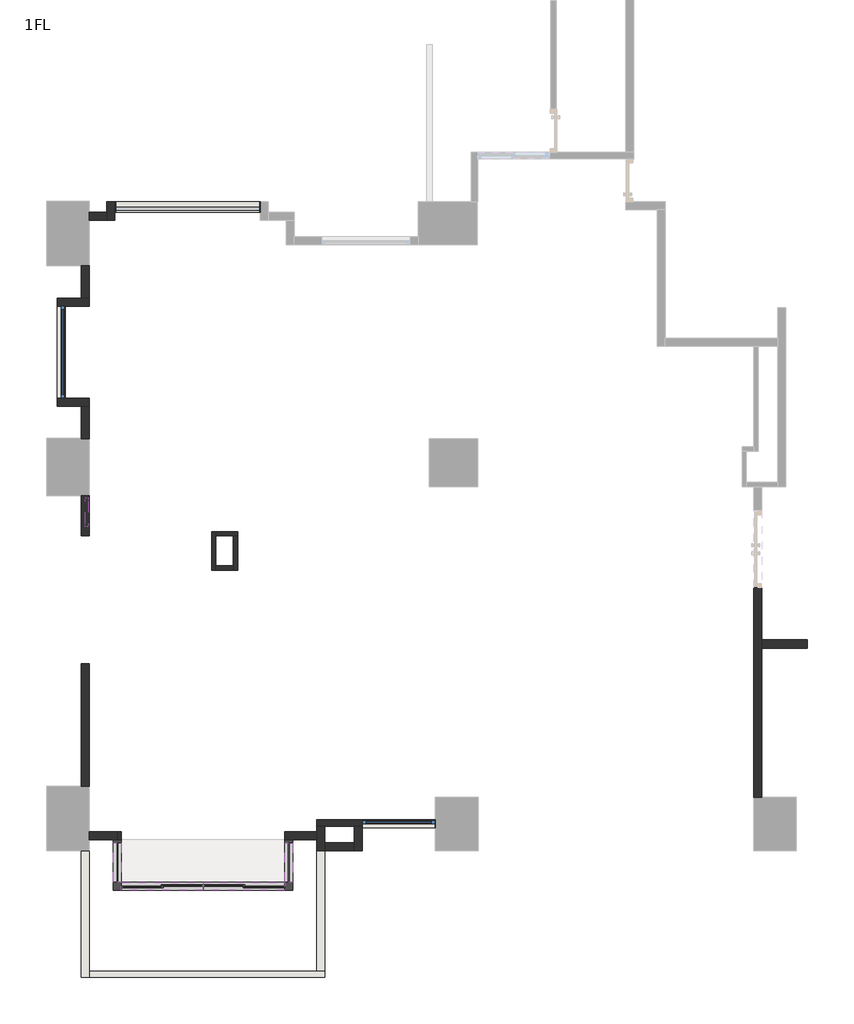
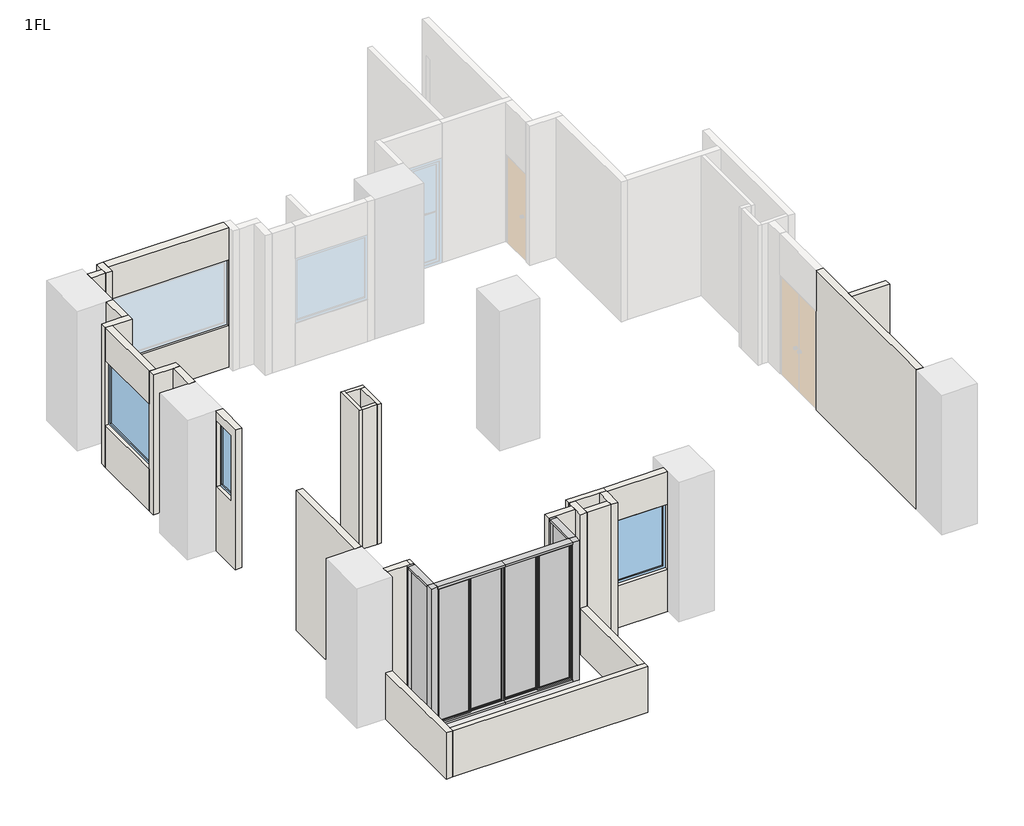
# One storey, part 1 of 2: 27 walls, 12 members, 4 plates, 3 windows.
"""IFC4 building model written with IfcOpenShell, lengths in millimetres."""

import ifcopenshell
import ifcopenshell.guid

model = None  # the IFC model being written
_history = None  # IfcOwnerHistory: only IFC2X3 demands one
_inside = {}  # id of a spatial element -> (the spatial element, [elements in it])
_under = {}  # id of a project, library or spatial element -> (it, [spatial elements below it])
_declared = {}  # id of a project -> (the project, [libraries it declares])
_typed = {}  # id of a type object -> (the type object, [elements of that type])
_made_of = {}  # id of a material, layer set ... -> (it, [elements and type objects made of it])


def new_model(schema):
    """Start an empty IFC model of exactly this schema.

    Asked for "IFC4X3", IfcOpenShell would pick the latest addendum, in which some entities
    have other attributes; the version numbers below select the first issue.
    IFC2X3 requires an IfcOwnerHistory on every rooted entity: one is made here for all.
    """
    global model, _history
    if schema == "IFC4X3":
        model = ifcopenshell.file(schema_version=(4, 3, 0, 0))
    else:
        model = ifcopenshell.file(schema=schema)
    _inside.clear()
    _under.clear()
    _declared.clear()
    _typed.clear()
    _made_of.clear()
    _history = None
    if model.schema == "IFC2X3":
        org = make("IfcOrganization", Name="unknown")
        user = make(
            "IfcPersonAndOrganization",
            ThePerson=make("IfcPerson", FamilyName="unknown"),
            TheOrganization=org,
        )
        app = make(
            "IfcApplication",
            ApplicationDeveloper=org,
            Version="unknown",
            ApplicationFullName="unknown",
            ApplicationIdentifier="unknown",
        )
        _history = make(
            "IfcOwnerHistory",
            OwningUser=user,
            OwningApplication=app,
            ChangeAction="ADDED",
            CreationDate=0,
        )
    return model


def make(cls, **values):
    """One entity of the class cls with the attributes given. An attribute that is None is left unset."""
    return model.create_entity(
        cls, **{name: value for name, value in values.items() if value is not None}
    )


def rooted(cls, **values):
    """An entity with a GlobalId (a new one), such as an element, a storey or a relation."""
    return make(cls, GlobalId=ifcopenshell.guid.new(), OwnerHistory=_history, **values)


def si_unit(unit_type, name, prefix=None):
    """IfcSIUnit, for example si_unit("LENGTHUNIT", "METRE", prefix="MILLI")."""
    return make("IfcSIUnit", UnitType=unit_type, Prefix=prefix, Name=name)


def assignment(units):
    """IfcUnitAssignment: the units of a project."""
    return None if units is None else make("IfcUnitAssignment", Units=units)


def point(xyz):
    """IfcCartesianPoint."""
    return None if xyz is None else make("IfcCartesianPoint", Coordinates=xyz)


def direction(xyz):
    """IfcDirection."""
    return None if xyz is None else make("IfcDirection", DirectionRatios=xyz)


def frame(location, z_axis=None, x_axis=None):
    """IfcAxis2Placement3D, a coordinate frame: its origin and axes. An axis left out is left unset."""
    return make(
        "IfcAxis2Placement3D",
        Location=point(location),
        Axis=direction(z_axis),
        RefDirection=direction(x_axis),
    )


def origin():
    """The frame at (0, 0, 0) with its axes left unset."""
    return frame((0.0, 0.0, 0.0))


def origin_with_axes():
    """The frame at (0, 0, 0) with the z axis (0, 0, 1) and the x axis (1, 0, 0) written out."""
    return frame((0.0, 0.0, 0.0), z_axis=(0.0, 0.0, 1.0), x_axis=(1.0, 0.0, 0.0))


def place(relative_to, where):
    """IfcLocalPlacement: puts the frame where relative to a parent placement (None: the world)."""
    return make(
        "IfcLocalPlacement", PlacementRelTo=relative_to, RelativePlacement=where
    )


def context(
    kind, dimensions, precision=None, world=None, true_north=None, identifier=None
):
    """IfcGeometricRepresentationContext, for example the 3D "Model" context."""
    return make(
        "IfcGeometricRepresentationContext",
        ContextIdentifier=identifier,
        ContextType=kind,
        CoordinateSpaceDimension=dimensions,
        Precision=precision,
        WorldCoordinateSystem=world,
        TrueNorth=true_north,
    )


def project(units=None, contexts=None):
    """IfcProject with its units and contexts."""
    return rooted(
        "IfcProject",
        Name="project",
        RepresentationContexts=contexts,
        UnitsInContext=assignment(units),
    )


def spatial(cls, under=None, at=None, **own):
    """A site, building, storey or space (cls), placed at a placement, below another one or the project."""
    s = rooted(cls, ObjectPlacement=at, **own)
    if under is not None:
        _under.setdefault(under.id(), (under, []))[1].append(s)
    return s


def polyline(points):
    """IfcPolyline through the points."""
    return make("IfcPolyline", Points=[point(p) for p in points])


def outline(outer, holes=None, kind="AREA"):
    """IfcArbitraryClosedProfileDef: a profile drawn as a closed curve; with holes, ...WithVoids."""
    if holes is None:
        return make("IfcArbitraryClosedProfileDef", ProfileType=kind, OuterCurve=outer)
    return make(
        "IfcArbitraryProfileDefWithVoids",
        ProfileType=kind,
        OuterCurve=outer,
        InnerCurves=holes,
    )


def extrude(swept, where, along, depth):
    """IfcExtrudedAreaSolid: the profile swept, set in the frame where, extruded along a direction by depth."""
    return make(
        "IfcExtrudedAreaSolid",
        SweptArea=swept,
        Position=where,
        ExtrudedDirection=direction(along),
        Depth=depth,
    )


def faces_of(points, faces, orient=None, outer=None):
    """IfcFace entities. A face is a list of loops; a loop is a list of indices into points, from 0.

    orient and outer hold one flag for each loop. By default every Orientation is true, the
    first loop of a face is its IfcFaceOuterBound and the others are IfcFaceBound.
    """
    made = []
    for i, loops in enumerate(faces):
        bounds = []
        for j, loop in enumerate(loops):
            is_outer = j == 0 if outer is None else outer[i][j]
            bounds.append(
                make(
                    "IfcFaceOuterBound" if is_outer else "IfcFaceBound",
                    Bound=make("IfcPolyLoop", Polygon=[points[k] for k in loop]),
                    Orientation=True if orient is None else orient[i][j],
                )
            )
        made.append(make("IfcFace", Bounds=bounds))
    return made


def faceted_brep(points, faces, orient=None, outer=None, voids=None):
    """IfcFacetedBrep: a solid bounded by flat faces; with voids (closed shells), ...WithVoids."""
    shared = [point(p) for p in points]
    hull = make("IfcClosedShell", CfsFaces=faces_of(shared, faces, orient, outer))
    if voids is None:
        return make("IfcFacetedBrep", Outer=hull)
    return make(
        "IfcFacetedBrepWithVoids",
        Outer=hull,
        Voids=[
            make(cls, CfsFaces=faces_of(shared, fs, o, b)) for cls, fs, o, b in voids
        ],
    )


def shape(context_of_items, identifier, shape_type, items):
    """IfcShapeRepresentation: the items that make up one representation, for example the "Body"."""
    return make(
        "IfcShapeRepresentation",
        ContextOfItems=context_of_items,
        RepresentationIdentifier=identifier,
        RepresentationType=shape_type,
        Items=items,
    )


def source(mapping_origin, context_of_items, identifier, shape_type, items):
    """IfcRepresentationMap: a shape defined once, which mapped items show again and again."""
    return make(
        "IfcRepresentationMap",
        MappingOrigin=mapping_origin,
        MappedRepresentation=shape(context_of_items, identifier, shape_type, items),
    )


def transform(
    local_origin,
    x_axis=None,
    y_axis=None,
    z_axis=None,
    scale=None,
    scale2=None,
    scale3=None,
    uniform=True,
):
    """IfcCartesianTransformationOperator3D, or its non-uniform kind. x_axis, y_axis, z_axis: its Axis1, 2, 3."""
    if uniform:
        return make(
            "IfcCartesianTransformationOperator3D",
            Axis1=direction(x_axis),
            Axis2=direction(y_axis),
            LocalOrigin=point(local_origin),
            Scale=scale,
            Axis3=direction(z_axis),
        )
    return make(
        "IfcCartesianTransformationOperator3DnonUniform",
        Axis1=direction(x_axis),
        Axis2=direction(y_axis),
        LocalOrigin=point(local_origin),
        Scale=scale,
        Axis3=direction(z_axis),
        Scale2=scale2,
        Scale3=scale3,
    )


def mapped(mapping_source, mapping_target):
    """IfcMappedItem: shows the shape of a source again, moved by a transform."""
    return make(
        "IfcMappedItem", MappingSource=mapping_source, MappingTarget=mapping_target
    )


def made_of(thing, what):
    """Note that an element or type object is made of a material, layer set ...; save() writes the relation."""
    if what is not None:
        _made_of.setdefault(what.id(), (what, []))[1].append(thing)
    return thing


def element(
    cls,
    number,
    at=None,
    inside=None,
    cuts=None,
    type_object=None,
    material=None,
    context=None,
    identifier="Body",
    shape_type=None,
    held_by="IfcProductDefinitionShape",
    body=None,
    shapes=None,
    **own,
):
    """One element of the class cls, such as IfcWall. Its Tag is "e" and its number.

    at: its placement. inside: the storey or other place that contains it. cuts: it is an
    opening in that element (IfcRelVoidsElement). A single representation is given by context,
    identifier, shape_type and body (its items); several are given by shapes. held_by: the class
    of the entity that holds the representations. save() writes the other relations.
    """
    e = rooted(cls, Tag="e%d" % number, ObjectPlacement=at, **own)
    if body is not None:
        shapes = [shape(context, identifier, shape_type, body)]
    if shapes is not None:
        e.Representation = make(held_by, Representations=shapes)
    if inside is not None:
        _inside.setdefault(inside.id(), (inside, []))[1].append(e)
    if cuts is not None:
        rooted(
            "IfcRelVoidsElement", RelatingBuildingElement=cuts, RelatedOpeningElement=e
        )
    if type_object is not None:
        _typed.setdefault(type_object.id(), (type_object, []))[1].append(e)
    return made_of(e, material)


def aggregate(whole, parts):
    """IfcRelAggregates: a whole, such as a stair, and the parts it consists of."""
    return rooted("IfcRelAggregates", RelatingObject=whole, RelatedObjects=parts)


def save(model, path):
    """Write the relations noted so far, then the file.

    IfcRelAggregates (storeys below a building ...), IfcRelContainedInSpatialStructure (elements
    in a storey), IfcRelDefinesByType, IfcRelAssociatesMaterial and IfcRelDeclares: one each for
    every whole, place, type object, material and project.
    """
    for whole, parts in _under.values():
        aggregate(whole, parts)
    for where, things in _inside.values():
        rooted(
            "IfcRelContainedInSpatialStructure",
            RelatedElements=things,
            RelatingStructure=where,
        )
    for kind, things in _typed.values():
        rooted("IfcRelDefinesByType", RelatedObjects=things, RelatingType=kind)
    for what, things in _made_of.values():
        rooted("IfcRelAssociatesMaterial", RelatedObjects=things, RelatingMaterial=what)
    for by, libraries in _declared.values():
        rooted("IfcRelDeclares", RelatingContext=by, RelatedDefinitions=libraries)
    model.write(path)


def member_cc25a499(model_context):
    return source(origin(), model_context, "Body", "SweptSolid", [
        extrude(outline(polyline([(75.0, 75.0), (75.0, -75.0), (-75.0, -75.0), (-75.0, 75.0), (75.0, 75.0)])), frame((0.0, 0.0, -3330.0), z_axis=(0.0, 0.0, 1.0), x_axis=(1.0, 0.0, 0.0)), (0.0, 0.0, 1.0), 3330.0),
    ])


def member_50_x_150mm_f2553ced(model_context):
    return source(origin(), model_context, "Body", "SweptSolid", [
        extrude(outline(polyline([(0.0, 75.0), (0.0, -75.0), (-50.0, -75.0), (-50.0, 75.0), (0.0, 75.0)])), frame((0.0, 0.0, -3330.0), z_axis=(0.0, 0.0, 1.0), x_axis=(1.0, 0.0, 0.0)), (0.0, 0.0, 1.0), 3330.0),
    ])


def member_50_x_150mm_7336e13a(model_context):
    return source(origin(), model_context, "Body", "SweptSolid", [
        extrude(outline(polyline([(0.0, 75.0), (0.0, -75.0), (-50.0, -75.0), (-50.0, 75.0), (0.0, 75.0)])), frame((0.0, 0.0, -739.9999994), z_axis=(0.0, 0.0, 1.0), x_axis=(1.0, 0.0, 0.0)), (0.0, 0.0, 1.0), 739.9999994),
    ])


def member_50_x_150mm_3bafebb8(model_context):
    return source(origin(), model_context, "Body", "SweptSolid", [
        extrude(outline(polyline([(0.0, 75.0), (0.0, -75.0), (-50.0, -75.0), (-50.0, 75.0), (0.0, 75.0)])), frame((0.0, 0.0, -1522.5000002), z_axis=(0.0, 0.0, 1.0), x_axis=(1.0, 0.0, 0.0)), (0.0, 0.0, 1.0), 1522.5000002),
    ])


def plate_205e5e19(model_context):
    return source(origin(), model_context, "Body", "SweptSolid", [
        extrude(outline(polyline([(369.9999997, -5.0), (-369.9999997, -5.0), (-369.9999997, 5.0), (369.9999997, 5.0), (369.9999997, -5.0)])), origin_with_axes(), (0.0, 0.0, 1.0), 3230.0),
    ])


def plate_54f529d7(model_context):
    return source(origin(), model_context, "Body", "SweptSolid", [
        extrude(outline(polyline([(0.0, -15.0), (0.0, 761.2500001), (3230.0, 761.2500001), (3230.0, -15.0), (0.0, -15.0)]), holes=[polyline([(30.0, 15.0), (3200.0, 15.0), (3200.0, 731.2500001), (30.0, 731.2500001), (30.0, 15.0)])]), frame((0.0, 0.0, 0.0), z_axis=(0.0, 1.0, 0.0), x_axis=(0.0, 0.0, 1.0)), (0.0, 0.0, 1.0), 30.0),
        extrude(outline(polyline([(711.2500001, 10.0), (35.0, 10.0), (35.0, 20.0), (711.2500001, 20.0), (711.2500001, 10.0)])), frame((0.0, 0.0, 50.0), z_axis=(0.0, 0.0, 1.0), x_axis=(1.0, 0.0, 0.0)), (0.0, 0.0, 1.0), 3130.0),
        extrude(outline(polyline([(3200.0, 731.2500001), (3200.0, 15.0), (30.0, 15.0), (30.0, 731.2500001), (3200.0, 731.2500001)]), holes=[polyline([(3180.0, 35.0), (3180.0, 711.2500001), (50.0, 711.2500001), (50.0, 35.0), (3180.0, 35.0)])]), frame((0.0, 5.0, 0.0), z_axis=(0.0, 1.0, 0.0), x_axis=(0.0, 0.0, 1.0)), (0.0, 0.0, 1.0), 20.0),
        extrude(outline(polyline([(-35.0, -20.0), (-711.2500001, -20.0), (-711.2500001, -10.0), (-35.0, -10.0), (-35.0, -20.0)])), frame((0.0, 0.0, 50.0), z_axis=(0.0, 0.0, 1.0), x_axis=(1.0, 0.0, 0.0)), (0.0, 0.0, 1.0), 3130.0),
        extrude(outline(polyline([(3200.0, -731.2500001), (30.0, -731.2500001), (30.0, -15.0), (3200.0, -15.0), (3200.0, -731.2500001)]), holes=[polyline([(3180.0, -711.2500001), (3180.0, -35.0), (50.0, -35.0), (50.0, -711.2500001), (3180.0, -711.2500001)])]), frame((0.0, -25.0, 0.0), z_axis=(0.0, 1.0, 0.0), x_axis=(0.0, 0.0, 1.0)), (0.0, 0.0, 1.0), 20.0),
        extrude(outline(polyline([(3230.0, -761.2500001), (0.0, -761.2500001), (0.0, 15.0), (3230.0, 15.0), (3230.0, -761.2500001)]), holes=[polyline([(3200.0, -15.0), (30.0, -15.0), (30.0, -731.2500001), (3200.0, -731.2500001), (3200.0, -15.0)])]), frame((0.0, -30.0, 0.0), z_axis=(0.0, 1.0, 0.0), x_axis=(0.0, 0.0, 1.0)), (0.0, 0.0, 1.0), 30.0),
    ])


def plate_564381dc(model_context):
    return source(origin(), model_context, "Body", "SweptSolid", [
        extrude(outline(polyline([(0.0, -15.0), (0.0, 761.2500001), (3230.0, 761.2500001), (3230.0, -15.0), (0.0, -15.0)]), holes=[polyline([(30.0, 15.0), (3200.0, 15.0), (3200.0, 731.2500001), (30.0, 731.2500001), (30.0, 15.0)])]), frame((0.0, -30.0, 0.0), z_axis=(0.0, 1.0, 0.0), x_axis=(0.0, 0.0, 1.0)), (0.0, 0.0, 1.0), 30.0),
        extrude(outline(polyline([(711.2500001, -10.0), (711.2500001, -20.0), (35.0, -20.0), (35.0, -10.0), (711.2500001, -10.0)])), frame((0.0, 0.0, 50.0), z_axis=(0.0, 0.0, 1.0), x_axis=(1.0, 0.0, 0.0)), (0.0, 0.0, 1.0), 3130.0),
        extrude(outline(polyline([(3200.0, 731.2500001), (3200.0, 15.0), (30.0, 15.0), (30.0, 731.2500001), (3200.0, 731.2500001)]), holes=[polyline([(3180.0, 35.0), (3180.0, 711.2500001), (50.0, 711.2500001), (50.0, 35.0), (3180.0, 35.0)])]), frame((0.0, -25.0, 0.0), z_axis=(0.0, 1.0, 0.0), x_axis=(0.0, 0.0, 1.0)), (0.0, 0.0, 1.0), 20.0),
        extrude(outline(polyline([(-35.0, 20.0), (-35.0, 10.0), (-711.2500001, 10.0), (-711.2500001, 20.0), (-35.0, 20.0)])), frame((0.0, 0.0, 50.0), z_axis=(0.0, 0.0, 1.0), x_axis=(1.0, 0.0, 0.0)), (0.0, 0.0, 1.0), 3130.0),
        extrude(outline(polyline([(3200.0, -731.2500001), (30.0, -731.2500001), (30.0, -15.0), (3200.0, -15.0), (3200.0, -731.2500001)]), holes=[polyline([(3180.0, -711.2500001), (3180.0, -35.0), (50.0, -35.0), (50.0, -711.2500001), (3180.0, -711.2500001)])]), frame((0.0, 5.0, 0.0), z_axis=(0.0, 1.0, 0.0), x_axis=(0.0, 0.0, 1.0)), (0.0, 0.0, 1.0), 20.0),
        extrude(outline(polyline([(3230.0, -761.2500001), (0.0, -761.2500001), (0.0, 15.0), (3230.0, 15.0), (3230.0, -761.2500001)]), holes=[polyline([(3200.0, -15.0), (30.0, -15.0), (30.0, -731.2500001), (3200.0, -731.2500001), (3200.0, -15.0)])]), frame((0.0, 0.0, 0.0), z_axis=(0.0, 1.0, 0.0), x_axis=(0.0, 0.0, 1.0)), (0.0, 0.0, 1.0), 30.0),
    ])


def window_5eaa62ca(model_context):
    return source(origin(), model_context, "Body", "SweptSolid", [
        extrude(outline(polyline([(2550.0, 677.5), (2550.0, -677.5), (1000.0, -677.5), (1000.0, 677.5), (2550.0, 677.5)]), holes=[polyline([(2490.0, 617.5), (1060.0, 617.5), (1060.0, -617.5), (2490.0, -617.5), (2490.0, 617.5)])]), frame((0.0, -60.0, 0.0), z_axis=(0.0, 1.0, 0.0), x_axis=(0.0, 0.0, 1.0)), (0.0, 0.0, 1.0), 60.0),
        extrude(outline(polyline([(-617.5, -25.0), (617.5, -25.0), (617.5, -35.0), (-617.5, -35.0), (-617.5, -25.0)])), frame((0.0, 0.0, 1060.0), z_axis=(0.0, 0.0, 1.0), x_axis=(1.0, 0.0, 0.0)), (0.0, 0.0, 1.0), 1430.0),
    ])


def window_3458c4c9(model_context):
    return source(origin(), model_context, "Body", "SweptSolid", [
        extrude(outline(polyline([(3100.0, 270.0), (3100.0, -270.0), (1550.0, -270.0), (1550.0, 270.0), (3100.0, 270.0)]), holes=[polyline([(3040.0, 210.0), (1610.0, 210.0), (1610.0, -210.0), (3040.0, -210.0), (3040.0, 210.0)])]), frame((0.0, -60.0, 0.0), z_axis=(0.0, 1.0, 0.0), x_axis=(0.0, 0.0, 1.0)), (0.0, 0.0, 1.0), 60.0),
        extrude(outline(polyline([(-210.0, -25.0), (210.0, -25.0), (210.0, -35.0), (-210.0, -35.0), (-210.0, -25.0)])), frame((0.0, 0.0, 1610.0), z_axis=(0.0, 0.0, 1.0), x_axis=(1.0, 0.0, 0.0)), (0.0, 0.0, 1.0), 1430.0),
    ])


def window_e3a91f63(model_context):
    return source(origin(), model_context, "Body", "SweptSolid", [
        extrude(outline(polyline([(2550.0, 857.5), (2550.0, -857.5), (1000.0, -857.5), (1000.0, 857.5), (2550.0, 857.5)]), holes=[polyline([(2490.0, 797.5), (1060.0, 797.5), (1060.0, -797.5), (2490.0, -797.5), (2490.0, 797.5)])]), frame((0.0, -60.0, 0.0), z_axis=(0.0, 1.0, 0.0), x_axis=(0.0, 0.0, 1.0)), (0.0, 0.0, 1.0), 60.0),
        extrude(outline(polyline([(-797.5, -25.0), (797.5, -25.0), (797.5, -35.0), (-797.5, -35.0), (-797.5, -25.0)])), frame((0.0, 0.0, 1060.0), z_axis=(0.0, 0.0, 1.0), x_axis=(1.0, 0.0, 0.0)), (0.0, 0.0, 1.0), 1430.0),
    ])


model = new_model("IFC4")

# Units and contexts
model_context = context("Model", 3, world=origin())
ifc_project = project(units=[si_unit("LENGTHUNIT", "METRE", prefix="MILLI")], contexts=[model_context])

# Site, building, storey
site = spatial("IfcSite", under=ifc_project)
building = spatial("IfcBuilding", under=site)
storey = spatial("IfcBuildingStorey", under=building, Name="1FL", Elevation=0.0)

# Members
placement = place(None, origin())
member_shape = member_cc25a499(model_context)
element("IfcMember", 1, ObjectType="四邊形角豎框 : 四邊形-鋁擠型料", at=placement, inside=storey, context=model_context, shape_type="MappedRepresentation", body=[
    mapped(member_shape, transform((-5558.8155559, -5105.9301263, 0.0), x_axis=(-1.0, 0.0, 0.0), y_axis=(0.0, 1.0, 0.0), z_axis=(0.0, 0.0, -1.0))),
])
element("IfcMember", 2, ObjectType="四邊形角豎框 : 四邊形-鋁擠型料", at=placement, inside=storey, context=model_context, shape_type="MappedRepresentation", body=[
    mapped(member_shape, transform((-2363.8155555, -5105.9301263, 0.0), x_axis=(0.0, -1.0, 0.0), y_axis=(-1.0, 0.0, 0.0), z_axis=(0.0, 0.0, -1.0))),
])
member_50_x_150mm_shape = member_50_x_150mm_f2553ced(model_context)
element("IfcMember", 3, ObjectType="矩形豎框 : 50 x 150mm", at=placement, inside=storey, context=model_context, shape_type="MappedRepresentation", body=[
    mapped(member_50_x_150mm_shape, transform((-5558.8155559, -4240.9301269, 0.0), x_axis=(0.0, 1.0, 0.0), y_axis=(1.0, 0.0, 0.0), z_axis=(0.0, 0.0, -1.0))),
])
element("IfcMember", 4, ObjectType="矩形豎框 : 50 x 150mm", at=placement, inside=storey, context=model_context, shape_type="MappedRepresentation", body=[
    mapped(member_50_x_150mm_shape, transform((-2363.8155555, -4240.9301269, 3330.0), x_axis=(0.0, 1.0, 0.0), y_axis=(-1.0, 0.0, 0.0), z_axis=(0.0, 0.0, 1.0))),
])
member_50_x_150mm_2_shape = member_50_x_150mm_7336e13a(model_context)
element("IfcMember", 5, ObjectType="矩形豎框 : 50 x 150mm", at=placement, inside=storey, context=model_context, shape_type="MappedRepresentation", body=[
    mapped(member_50_x_150mm_2_shape, transform((-5558.8155559, -5030.9301263, 0.0), x_axis=(0.0, 0.0, -1.0), y_axis=(1.0, 0.0, 0.0), z_axis=(0.0, -1.0, 0.0))),
])
element("IfcMember", 6, ObjectType="矩形豎框 : 50 x 150mm", at=placement, inside=storey, context=model_context, shape_type="MappedRepresentation", body=[
    mapped(member_50_x_150mm_2_shape, transform((-5558.8155559, -4290.9301269, 3330.0), x_axis=(0.0, 0.0, 1.0), y_axis=(1.0, 0.0, 0.0), z_axis=(0.0, 1.0, 0.0))),
])
element("IfcMember", 7, ObjectType="矩形豎框 : 50 x 150mm", at=placement, inside=storey, context=model_context, shape_type="MappedRepresentation", body=[
    mapped(member_50_x_150mm_2_shape, transform((-2363.8155555, -4290.9301269, 0.0), x_axis=(0.0, 0.0, -1.0), y_axis=(-1.0, 0.0, 0.0), z_axis=(0.0, 1.0, 0.0))),
])
element("IfcMember", 8, ObjectType="矩形豎框 : 50 x 150mm", at=placement, inside=storey, context=model_context, shape_type="MappedRepresentation", body=[
    mapped(member_50_x_150mm_2_shape, transform((-2363.8155555, -5030.9301263, 3330.0), x_axis=(0.0, 0.0, 1.0), y_axis=(-1.0, 0.0, 0.0), z_axis=(0.0, -1.0, 0.0))),
])
member_50_x_150mm_3_shape = member_50_x_150mm_3bafebb8(model_context)
element("IfcMember", 9, ObjectType="矩形豎框 : 50 x 150mm", at=placement, inside=storey, context=model_context, shape_type="MappedRepresentation", body=[
    mapped(member_50_x_150mm_3_shape, transform((-2438.8155555, -5105.9301263, 0.0), x_axis=(0.0, 0.0, -1.0), y_axis=(0.0, 1.0, 0.0), z_axis=(1.0, 0.0, 0.0))),
])
element("IfcMember", 10, ObjectType="矩形豎框 : 50 x 150mm", at=placement, inside=storey, context=model_context, shape_type="MappedRepresentation", body=[
    mapped(member_50_x_150mm_3_shape, transform((-5483.8155559, -5105.9301263, 3330.0), x_axis=(0.0, 0.0, 1.0), y_axis=(0.0, 1.0, 0.0), z_axis=(-1.0, 0.0, 0.0))),
])
element("IfcMember", 11, ObjectType="矩形豎框 : 50 x 150mm", at=placement, inside=storey, context=model_context, shape_type="MappedRepresentation", body=[
    mapped(member_50_x_150mm_3_shape, transform((-3961.3155557, -5105.9301263, 0.0), x_axis=(0.0, 0.0, -1.0), y_axis=(0.0, 1.0, 0.0), z_axis=(1.0, 0.0, 0.0))),
])
element("IfcMember", 12, ObjectType="矩形豎框 : 50 x 150mm", at=placement, inside=storey, context=model_context, shape_type="MappedRepresentation", body=[
    mapped(member_50_x_150mm_3_shape, transform((-3961.3155557, -5105.9301263, 3330.0), x_axis=(0.0, 0.0, 1.0), y_axis=(0.0, 1.0, 0.0), z_axis=(-1.0, 0.0, 0.0))),
])

# Plates
plate_shape = plate_205e5e19(model_context)
element("IfcPlate", 13, ObjectType="系統嵌板 : 玻璃1.0cm", at=placement, inside=storey, context=model_context, shape_type="MappedRepresentation", body=[
    mapped(plate_shape, transform((-5558.8155559, -4660.9301266, 50.0), x_axis=(0.0, 1.0, 0.0), y_axis=(-1.0, 0.0, 0.0), z_axis=(0.0, 0.0, 1.0))),
])
element("IfcPlate", 14, ObjectType="系統嵌板 : 玻璃1.0cm", at=placement, inside=storey, context=model_context, shape_type="MappedRepresentation", body=[
    mapped(plate_shape, transform((-2363.8155555, -4660.9301266, 50.0), x_axis=(0.0, -1.0, 0.0), y_axis=(1.0, 0.0, 0.0), z_axis=(0.0, 0.0, 1.0))),
])
plate_2_shape = plate_54f529d7(model_context)
element("IfcPlate", 15, ObjectType="帷幕橫拉窗 : 帷幕橫拉窗", at=placement, inside=storey, context=model_context, shape_type="MappedRepresentation", body=[
    mapped(plate_2_shape, transform((-4722.5655558, -5105.9301263, 50.0), x_axis=(-1.0, 0.0, 0.0), y_axis=(0.0, -1.0, 0.0), z_axis=(0.0, 0.0, 1.0))),
])
plate_3_shape = plate_564381dc(model_context)
element("IfcPlate", 16, ObjectType="帷幕橫拉窗 : 帷幕橫拉窗", at=placement, inside=storey, context=model_context, shape_type="MappedRepresentation", body=[
    mapped(plate_3_shape, transform((-3200.0655556, -5105.9301263, 50.0), x_axis=(-1.0, 0.0, 0.0), y_axis=(0.0, -1.0, 0.0), z_axis=(0.0, 0.0, 1.0))),
])

# Walls
element("IfcWall", 17, ObjectType="RC牆 15cm", at=placement, inside=storey, context=model_context, shape_type="SweptSolid", body=[
    extrude(outline(polyline([(-5756.3155559, 7314.0698739), (-6083.8155558, 7314.0698739), (-6083.8155558, 7464.0698739), (-5756.3155559, 7464.0698739), (-5756.3155559, 7314.0698739)])), origin_with_axes(), (0.0, 0.0, 1.0), 3330.0),
])
element("IfcWall", 18, ObjectType="RC牆 15cm", at=placement, inside=storey, context=model_context, shape_type="Brep", body=[
    faceted_brep([(-5606.3155559, 7314.0698739, 0.0), (-5606.3155559, 7464.0698741, 0.0), (-5606.3155559, 7664.0698741, 0.0), (-5606.3155559, 7664.0698741, 3330.0), (-5606.3155559, 7464.0698741, 3330.0), (-5606.3155559, 7314.0698739, 3330.0), (-5756.3155559, 7314.0698739, 0.0), (-5756.3155559, 7314.0698739, 3330.0), (-5756.3155559, 7464.0698739, 3330.0), (-5756.3155559, 7664.0698741, 3330.0), (-5756.3155559, 7664.0698741, 0.0), (-5756.3155559, 7464.0698739, 0.0)], [[[0, 1, 2, 3, 4, 5]], [[6, 7, 8, 9, 10, 11]], [[2, 1, 0, 6, 11, 10]], [[5, 4, 3, 9, 8, 7]], [[0, 5, 7, 6]], [[3, 2, 10, 9]]]),
])
element("IfcWall", 19, ObjectType="RC牆 15cm", at=placement, inside=storey, context=model_context, shape_type="Brep", body=[
    faceted_brep([(6311.1844447, 464.0698741, 0.0), (6311.1844447, -3440.9301263, 0.0), (6311.1844447, -3440.9301263, 3330.0), (6311.1844447, 464.0698741, 3330.0), (6311.1844447, 464.0698741, 2360.0), (6461.1844447, 464.0698741, 0.0), (6461.1844447, 464.0698741, 2360.0), (6461.1844447, 464.0698741, 3330.0), (6461.1844447, -510.979764, 3330.0), (6461.1844447, -660.979764, 3330.0), (6461.1844447, -3440.9301263, 3330.0), (6461.1844447, -3440.9301263, 0.0), (6461.1844447, -660.979764, 0.0), (6461.1844447, -510.979764, 0.0)], [[[0, 1, 2, 3, 4]], [[5, 6, 7, 8, 9, 10, 11, 12, 13]], [[1, 0, 5, 13, 12, 11]], [[2, 1, 11, 10]], [[3, 2, 10, 9, 8, 7]], [[0, 4, 3, 7, 6, 5]]]),
])
element("IfcWall", 20, ObjectType="RC牆 15cm", at=placement, inside=storey, context=model_context, shape_type="SweptSolid", body=[
    extrude(outline(polyline([(6461.1844447, -510.979764), (7311.1844447, -510.979764), (7311.1844447, -660.979764), (6461.1844447, -660.979764), (6461.1844447, -510.979764)])), origin_with_axes(), (0.0, 0.0, 1.0), 3330.0),
])
element("IfcWall", 21, ObjectType="RC牆 12cm", at=placement, inside=storey, context=model_context, shape_type="Brep", body=[
    faceted_brep([(-1838.8155555, -3985.9301263, 0.0), (-1688.8155555, -3985.9301263, 0.0), (-1143.8155554, -3985.9301263, 0.0), (-993.8155554, -3985.9301263, 0.0), (-993.8155554, -3985.9301263, 3330.0), (-1143.8155554, -3985.9301263, 3330.0), (-1688.8155555, -3985.9301263, 3330.0), (-1838.8155555, -3985.9301263, 3330.0), (-1838.8155555, -3865.9301263, 0.0), (-1838.8155555, -3865.9301263, 3330.0), (-993.8155554, -3865.9301263, 3330.0), (-993.8155554, -3865.9301263, 0.0)], [[[0, 1, 2, 3, 4, 5, 6, 7]], [[8, 9, 10, 11]], [[3, 2, 1, 0, 8, 11]], [[7, 6, 5, 4, 10, 9]], [[4, 3, 11, 10]], [[0, 7, 9, 8]]]),
])
element("IfcWall", 22, ObjectType="RC牆 15cm", at=placement, inside=storey, context=model_context, shape_type="Brep", body=[
    faceted_brep([(-1143.8155554, -3985.9301263, 0.0), (-1143.8155554, -4290.9301263, 0.0), (-1143.8155554, -4440.9301263, 0.0), (-1143.8155554, -4440.9301263, 3330.0), (-1143.8155554, -4290.9301263, 3330.0), (-1143.8155554, -3985.9301263, 3330.0), (-993.8155554, -3985.9301263, 0.0), (-993.8155554, -3985.9301263, 3330.0), (-993.8155554, -4015.9301263, 3330.0), (-993.8155554, -4440.9301263, 3330.0), (-993.8155554, -4440.9301263, 0.0), (-993.8155554, -4015.9301263, 0.0)], [[[0, 1, 2, 3, 4, 5]], [[6, 7, 8, 9, 10, 11]], [[2, 1, 0, 6, 11, 10]], [[5, 4, 3, 9, 8, 7]], [[3, 2, 10, 9]], [[0, 5, 7, 6]]]),
])
element("IfcWall", 23, ObjectType="RC牆 15cm", at=placement, inside=storey, context=model_context, shape_type="SweptSolid", body=[
    extrude(outline(polyline([(-6233.8155558, -3240.9301265), (-6233.8155558, -950.9301259), (-6083.8155558, -950.9301259), (-6083.8155558, -3240.9301265), (-6233.8155558, -3240.9301265)])), origin_with_axes(), (0.0, 0.0, 1.0), 3330.0),
])
element("IfcWall", 24, ObjectType="RC牆 15cm", at=placement, inside=storey, context=model_context, shape_type="SweptSolid", body=[
    extrude(outline(polyline([(-5558.8155559, -4240.9301269), (-6083.8155559, -4240.9301269), (-6083.8155559, -4090.9301269), (-5558.8155559, -4090.9301269), (-5558.8155559, -4240.9301269)])), origin_with_axes(), (0.0, 0.0, 1.0), 3330.0),
])
element("IfcWall", 25, ObjectType="RC牆 15cm", at=placement, inside=storey, context=model_context, shape_type="Brep", body=[
    faceted_brep([(-6683.8155558, 5714.0698739, 0.0), (-6533.8155558, 5714.0698739, 0.0), (-6083.8155558, 5714.0698739, 0.0), (-6083.8155558, 5714.0698739, 3330.0), (-6533.8155558, 5714.0698739, 3330.0), (-6683.8155558, 5714.0698739, 3330.0), (-6683.8155558, 5714.0698739, 2550.0), (-6683.8155558, 5714.0698739, 1000.0), (-6683.8155558, 5864.0698739, 0.0), (-6683.8155558, 5864.0698739, 3330.0), (-6233.8155558, 5864.0698739, 3330.0), (-6083.8155558, 5864.0698739, 3330.0), (-6083.8155558, 5864.0698739, 0.0), (-6233.8155558, 5864.0698739, 0.0)], [[[0, 1, 2, 3, 4, 5, 6, 7]], [[8, 9, 10, 11, 12, 13]], [[2, 1, 0, 8, 13, 12]], [[5, 4, 3, 11, 10, 9]], [[3, 2, 12, 11]], [[0, 7, 6, 5, 9, 8]]]),
])
element("IfcWall", 26, ObjectType="RC牆 15cm", at=placement, inside=storey, context=model_context, shape_type="SweptSolid", body=[
    extrude(outline(polyline([(-6083.8155558, 6469.0698739), (-6083.8155558, 5864.0698739), (-6233.8155558, 5864.0698739), (-6233.8155558, 6469.0698739), (-6083.8155558, 6469.0698739)])), origin_with_axes(), (0.0, 0.0, 1.0), 3330.0),
])
element("IfcWall", 27, ObjectType="RC牆 15cm", at=placement, inside=storey, context=model_context, shape_type="Brep", body=[
    faceted_brep([(-6683.8155558, 3849.069874, 0.0), (-6233.8155558, 3849.069874, 0.0), (-6083.8155558, 3849.069874, 0.0), (-6083.8155558, 3849.069874, 3330.0), (-6233.8155558, 3849.069874, 3330.0), (-6683.8155558, 3849.069874, 3330.0), (-6683.8155558, 3999.069874, 0.0), (-6683.8155558, 3999.069874, 1000.0), (-6683.8155558, 3999.069874, 2550.0), (-6683.8155558, 3999.069874, 3330.0), (-6533.8155558, 3999.069874, 3330.0), (-6083.8155558, 3999.069874, 3330.0), (-6083.8155558, 3999.069874, 0.0), (-6533.8155558, 3999.069874, 0.0)], [[[0, 1, 2, 3, 4, 5]], [[6, 7, 8, 9, 10, 11, 12, 13]], [[2, 1, 0, 6, 13, 12]], [[5, 4, 3, 11, 10, 9]], [[3, 2, 12, 11]], [[0, 5, 9, 8, 7, 6]]]),
])
element("IfcWall", 28, ObjectType="RC牆 15cm", at=placement, inside=storey, context=model_context, shape_type="SweptSolid", body=[
    extrude(outline(polyline([(-6233.8155558, 3239.069874), (-6233.8155558, 3849.069874), (-6083.8155558, 3849.069874), (-6083.8155558, 3239.069874), (-6233.8155558, 3239.069874)])), origin_with_axes(), (0.0, 0.0, 1.0), 3330.0),
])
element("IfcWall", 29, ObjectType="RC牆 8", at=placement, inside=storey, context=model_context, shape_type="Brep", body=[
    faceted_brep([(-3723.8155559, 789.0698739, 0.0), (-3723.8155559, 869.0698739, 0.0), (-3723.8155559, 1429.0689723, 0.0), (-3723.8155559, 1512.0689723, 0.0), (-3723.8155559, 1512.0689723, 3330.0), (-3723.8155559, 1429.0689723, 3330.0), (-3723.8155559, 869.0698739, 3330.0), (-3723.8155559, 789.0698739, 3330.0), (-3803.8155559, 789.0698739, 0.0), (-3803.8155559, 789.0698739, 3330.0), (-3803.8155559, 1512.0689723, 3330.0), (-3803.8155559, 1512.0689723, 0.0)], [[[0, 1, 2, 3, 4, 5, 6, 7]], [[8, 9, 10, 11]], [[3, 2, 1, 0, 8, 11]], [[7, 6, 5, 4, 10, 9]], [[4, 3, 11, 10]], [[0, 7, 9, 8]]]),
])
element("IfcWall", 30, ObjectType="RC牆 8.3", at=placement, inside=storey, context=model_context, shape_type="Brep", body=[
    faceted_brep([(-3723.8155559, 1429.0689723, 0.0), (-3402.8160726, 1429.0689723, 0.0), (-3313.8160726, 1429.0689723, 0.0), (-3313.8160726, 1429.0689723, 3330.0), (-3402.8160726, 1429.0689723, 3330.0), (-3723.8155559, 1429.0689723, 3330.0), (-3723.8155559, 1512.0689723, 0.0), (-3723.8155559, 1512.0689723, 3330.0), (-3313.8160726, 1512.0689723, 3330.0), (-3313.8160726, 1512.0689723, 0.0)], [[[0, 1, 2, 3, 4, 5]], [[6, 7, 8, 9]], [[2, 1, 0, 6, 9]], [[5, 4, 3, 8, 7]], [[3, 2, 9, 8]], [[0, 5, 7, 6]]]),
])
element("IfcWall", 31, ObjectType="RC牆 8.9", at=placement, inside=storey, context=model_context, shape_type="Brep", body=[
    faceted_brep([(-3402.8160726, 1429.0689723, 0.0), (-3402.8160726, 869.0698739, 0.0), (-3402.8160726, 789.0698739, 0.0), (-3402.8160726, 789.0698739, 3330.0), (-3402.8160726, 869.0698739, 3330.0), (-3402.8160726, 1429.0689723, 3330.0), (-3313.8160726, 1429.0689723, 0.0), (-3313.8160726, 1429.0689723, 3330.0), (-3313.8160726, 789.0698739, 3330.0), (-3313.8160726, 789.0698739, 0.0)], [[[0, 1, 2, 3, 4, 5]], [[6, 7, 8, 9]], [[2, 1, 0, 6, 9]], [[5, 4, 3, 8, 7]], [[3, 2, 9, 8]], [[0, 5, 7, 6]]]),
])
element("IfcWall", 32, ObjectType="RC牆 8", at=placement, inside=storey, context=model_context, shape_type="SweptSolid", body=[
    extrude(outline(polyline([(-3723.8155559, 869.0698739), (-3402.8160726, 869.0698739), (-3402.8160726, 789.0698739), (-3723.8155559, 789.0698739), (-3723.8155559, 869.0698739)])), origin_with_axes(), (0.0, 0.0, 1.0), 3330.0),
])
element("IfcWall", 33, ObjectType="RC牆 15cm", at=placement, inside=storey, context=model_context, shape_type="Brep", body=[
    faceted_brep([(-993.8155554, -4015.9301263, 0.0), (371.1844446, -4015.9301263, 0.0), (371.1844446, -4015.9301263, 3330.0), (-993.8155554, -4015.9301263, 3330.0), (366.1844446, -4015.9301263, 1000.0), (-988.8155554, -4015.9301263, 1000.0), (-988.8155554, -4015.9301263, 2550.0), (366.1844446, -4015.9301263, 2550.0), (-993.8155554, -3865.9301263, 0.0), (-993.8155554, -3865.9301263, 3330.0), (371.1844446, -3865.9301263, 3330.0), (371.1844446, -3865.9301263, 0.0), (366.1844446, -3865.9301263, 1000.0), (366.1844446, -3865.9301263, 2550.0), (-988.8155554, -3865.9301263, 2550.0), (-988.8155554, -3865.9301263, 1000.0), (-993.8155554, -3985.9301263, 0.0), (-993.8155554, -3985.9301263, 3330.0)], [[[0, 1, 2, 3], [4, 5, 6, 7]], [[8, 9, 10, 11], [12, 13, 14, 15]], [[1, 0, 16, 8, 11]], [[2, 1, 11, 10]], [[3, 2, 10, 9, 17]], [[0, 3, 17, 9, 8, 16]], [[13, 12, 4, 7]], [[14, 13, 7, 6]], [[15, 14, 6, 5]], [[12, 15, 5, 4]]]),
])
element("IfcWall", 34, ObjectType="RC牆 15cm", at=placement, inside=storey, context=model_context, shape_type="Brep", body=[
    faceted_brep([(-6233.8155559, -4440.9301265, 0.0), (-6233.8155559, -6805.9301268, 0.0), (-6233.8155559, -6805.9301268, 1100.0), (-6233.8155559, -4440.9301265, 1100.0), (-6083.8155559, -4440.9301265, 0.0), (-6083.8155559, -4440.9301265, 1100.0), (-6083.8155559, -6685.9301268, 1100.0), (-6083.8155559, -6805.9301268, 1100.0), (-6083.8155559, -6805.9301268, 0.0), (-6083.8155559, -6685.9301268, 0.0)], [[[0, 1, 2, 3]], [[4, 5, 6, 7, 8, 9]], [[1, 0, 4, 9, 8]], [[3, 2, 7, 6, 5]], [[0, 3, 5, 4]], [[2, 1, 8, 7]]]),
])
element("IfcWall", 35, ObjectType="RC牆 12cm", at=placement, inside=storey, context=model_context, shape_type="Brep", body=[
    faceted_brep([(-6083.8155559, -6805.9301268, 0.0), (-1688.8155555, -6805.9301268, 0.0), (-1688.8155555, -6805.9301268, 1100.0), (-6083.8155559, -6805.9301268, 1100.0), (-6083.8155559, -6685.9301268, 0.0), (-6083.8155559, -6685.9301268, 1100.0), (-1838.8155555, -6685.9301268, 1100.0), (-1688.8155555, -6685.9301268, 1100.0), (-1688.8155555, -6685.9301268, 0.0), (-1838.8155555, -6685.9301268, 0.0)], [[[0, 1, 2, 3]], [[4, 5, 6, 7, 8, 9]], [[1, 0, 4, 9, 8]], [[3, 2, 7, 6, 5]], [[2, 1, 8, 7]], [[0, 3, 5, 4]]]),
])
element("IfcWall", 36, ObjectType="RC牆 15cm", at=placement, inside=storey, context=model_context, shape_type="SweptSolid", body=[
    extrude(outline(polyline([(-1838.8155555, -6685.9301268), (-1838.8155555, -4440.9301263), (-1688.8155555, -4440.9301263), (-1688.8155555, -6685.9301268), (-1838.8155555, -6685.9301268)])), origin_with_axes(), (0.0, 0.0, 1.0), 1100.0),
])
element("IfcWall", 37, ObjectType="RC牆 15cm", at=placement, inside=storey, context=model_context, shape_type="Brep", body=[
    faceted_brep([(-1838.8155555, -3985.9301263, 0.0), (-1838.8155555, -4090.9301269, 0.0), (-1838.8155555, -4240.9301269, 0.0), (-1838.8155555, -4440.9301263, 0.0), (-1838.8155555, -4440.9301263, 1100.0), (-1838.8155555, -4440.9301263, 3330.0), (-1838.8155555, -4240.9301269, 3330.0), (-1838.8155555, -4090.9301269, 3330.0), (-1838.8155555, -3985.9301263, 3330.0), (-1688.8155555, -3985.9301263, 0.0), (-1688.8155555, -3985.9301263, 3330.0), (-1688.8155555, -4290.9301263, 3330.0), (-1688.8155555, -4440.9301263, 3330.0), (-1688.8155555, -4440.9301263, 0.0), (-1688.8155555, -4290.9301263, 0.0)], [[[0, 1, 2, 3, 4, 5, 6, 7, 8]], [[9, 10, 11, 12, 13, 14]], [[3, 2, 1, 0, 9, 14, 13]], [[8, 7, 6, 5, 12, 11, 10]], [[3, 13, 12, 5, 4]], [[0, 8, 10, 9]]]),
])
element("IfcWall", 38, ObjectType="RC牆 15cm", at=placement, inside=storey, context=model_context, shape_type="SweptSolid", body=[
    extrude(outline(polyline([(-1143.8155554, -4440.9301263), (-1688.8155555, -4440.9301263), (-1688.8155555, -4290.9301263), (-1143.8155554, -4290.9301263), (-1143.8155554, -4440.9301263)])), origin_with_axes(), (0.0, 0.0, 1.0), 3330.0),
])
element("IfcWall", 39, ObjectType="RC牆 15cm", at=placement, inside=storey, context=model_context, shape_type="SweptSolid", body=[
    extrude(outline(polyline([(-1838.8155555, -4240.9301269), (-2438.8155555, -4240.9301269), (-2438.8155555, -4090.9301269), (-1838.8155555, -4090.9301269), (-1838.8155555, -4240.9301269)])), origin_with_axes(), (0.0, 0.0, 1.0), 3330.0),
])
element("IfcWall", 40, ObjectType="RC牆 15cm", at=placement, inside=storey, context=model_context, shape_type="SweptSolid", body=[
    extrude(outline(polyline([(-5483.8155559, -4240.9301269), (-5558.8155559, -4240.9301269), (-5558.8155559, -4090.9301269), (-5483.8155559, -4090.9301269), (-5483.8155559, -4240.9301269)])), origin_with_axes(), (0.0, 0.0, 1.0), 3330.0),
])
element("IfcWall", 41, ObjectType="RC牆 15cm", at=placement, inside=storey, context=model_context, shape_type="SweptSolid", body=[
    extrude(outline(polyline([(1429.069874, 0.0), (1429.069874, 3330.0), (2178.6328358, 3330.0), (2178.6328358, 0.0), (1429.069874, 0.0)]), holes=[polyline([(1598.6328358, 1550.0), (2138.6328358, 1550.0), (2138.6328358, 3100.0), (1598.6328358, 3100.0), (1598.6328358, 1550.0)])]), frame((-6233.8155559, 0.0, 0.0), z_axis=(1.0, 0.0, 0.0), x_axis=(0.0, 1.0, 0.0)), (0.0, 0.0, 1.0), 150.0),
])
element("IfcWall", 42, ObjectType="RC牆 15cm", at=placement, inside=storey, context=model_context, shape_type="SweptSolid", body=[
    extrude(outline(polyline([(-6683.8155558, 3999.069874), (-6683.8155558, 5714.0698739), (-6533.8155558, 5714.0698739), (-6533.8155558, 3999.069874), (-6683.8155558, 3999.069874)])), origin_with_axes(), (0.0, 0.0, 1.0), 1000.0),
    extrude(outline(polyline([(-6533.8155558, 5714.069874), (-6533.8155558, 3999.069874), (-6683.8155558, 3999.069874), (-6683.8155558, 5714.069874), (-6533.8155558, 5714.069874)])), frame((0.0, 0.0, 2550.0), z_axis=(0.0, 0.0, 1.0), x_axis=(1.0, 0.0, 0.0)), (0.0, 0.0, 1.0), 780.0),
])
element("IfcWall", 43, ObjectType="RC牆 20cm", at=placement, inside=storey, context=model_context, shape_type="SweptSolid", body=[
    extrude(outline(polyline([(0.0, -2891.3155558), (3330.0, -2891.3155558), (3330.0, -5606.3155559), (0.0, -5606.3155559), (0.0, -2891.3155558)]), holes=[polyline([(1000.0, -5593.8155558), (2550.0, -5593.8155558), (2550.0, -2903.8155558), (1000.0, -2903.8155558), (1000.0, -5593.8155558)])]), frame((0.0, 7464.0698741, 0.0), z_axis=(0.0, 1.0, 0.0), x_axis=(0.0, 0.0, 1.0)), (0.0, 0.0, 1.0), 200.0),
])

# Windows
window_shape = window_5eaa62ca(model_context)
element("IfcWindow", 44, ObjectType="固定窗-矩形- (1) : 135.5 * 155 cm", at=placement, inside=storey, context=model_context, shape_type="MappedRepresentation", body=[
    mapped(window_shape, transform((-311.3155554, -3940.9301263, 0.0), x_axis=(-1.0, 0.0, 0.0), y_axis=(0.0, -1.0, 0.0), z_axis=(0.0, 0.0, 1.0))),
])
window_2_shape = window_3458c4c9(model_context)
element("IfcWindow", 45, ObjectType="固定窗-矩形- (1) : 54 * 100 cm", at=placement, inside=storey, context=model_context, shape_type="MappedRepresentation", body=[
    mapped(window_2_shape, transform((-6158.8155559, 1868.6328358, 0.0), x_axis=(0.0, 1.0, 0.0), y_axis=(-1.0, 0.0, 0.0), z_axis=(0.0, 0.0, 1.0))),
])
window_3_shape = window_e3a91f63(model_context)
element("IfcWindow", 46, ObjectType="固定窗-矩形- (1) : 171.5 * 155 cm", at=placement, inside=storey, context=model_context, shape_type="MappedRepresentation", body=[
    mapped(window_3_shape, transform((-6608.8155558, 4856.569874, 0.0), x_axis=(0.0, 1.0, 0.0), y_axis=(-1.0, 0.0, 0.0), z_axis=(0.0, 0.0, 1.0))),
])

save(model, "model.ifc")
